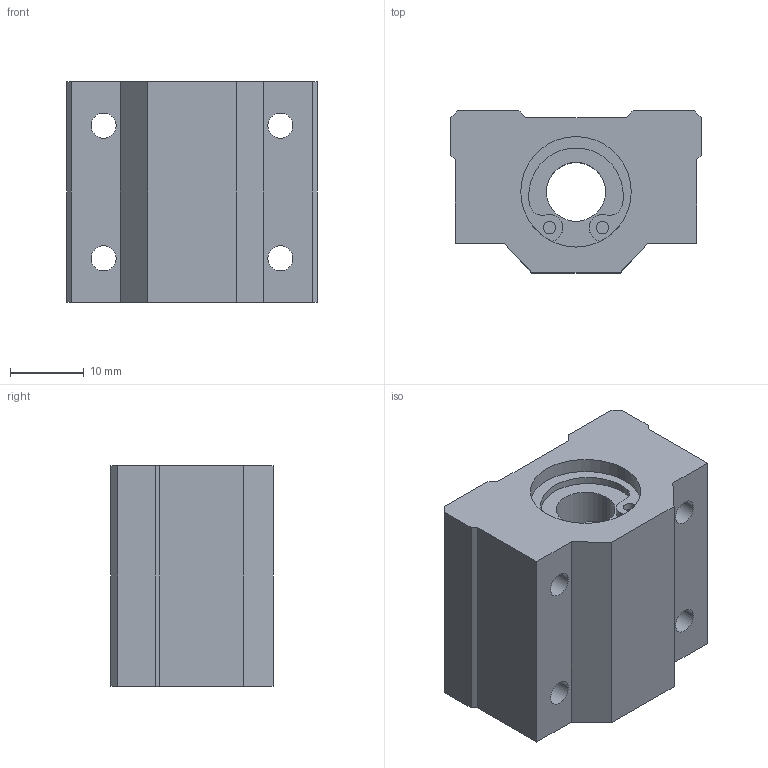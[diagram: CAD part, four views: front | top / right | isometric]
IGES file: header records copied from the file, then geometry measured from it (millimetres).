
Start section: 3D InterOp IGES (Version 21 0 1), Spatial Corp. Copyright (c) 1999-2007.
Global section: file name: LC-8VAUU.igs; native system: Spatial Corp.; preprocessor: 3D InterOp GENERIC/IGES 3.0; author: Noname; organization: Noname; date: 20220519.103905; units: millimetre
Bounding box: 34 x 22 x 30 mm (x, y, z)
Surface area: 5987 mm2 (no closed solid volume)
Topology: 0 solids, 0 shells, 82 faces, 428 edges, 428 vertices
Faces by surface type: revolution 50, extrusion 32
